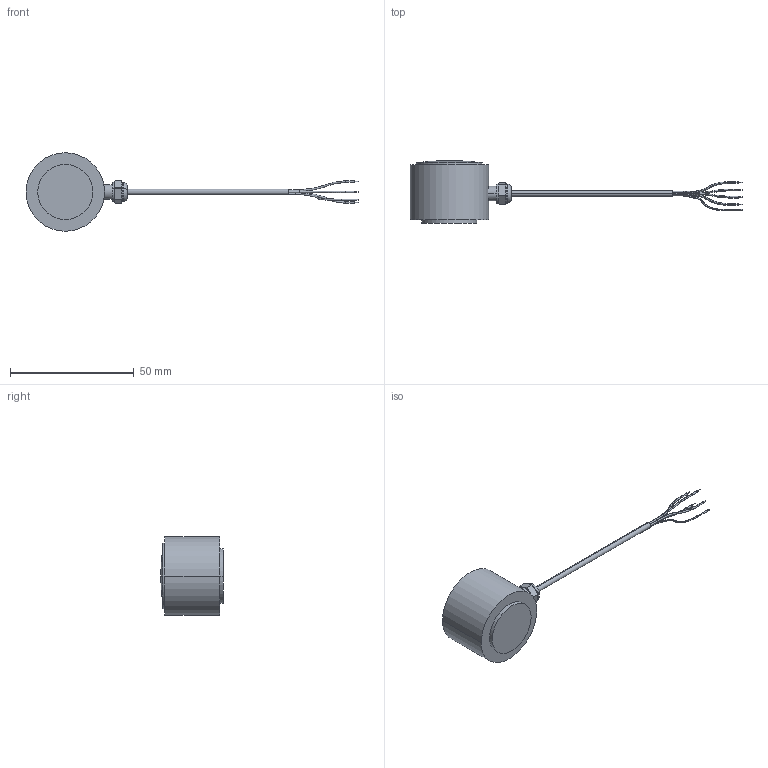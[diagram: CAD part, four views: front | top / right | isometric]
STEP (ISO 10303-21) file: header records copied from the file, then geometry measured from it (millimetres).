
FILE_DESCRIPTION (( 'STEP AP203' ), '1' );
FILE_NAME ('80519.STEP', '2017-10-02T14:25:10', ( '' ), ( '' ), 'SwSTEP 2.0', 'SolidWorks 2016', '' );
FILE_SCHEMA (( 'CONFIG_CONTROL_DESIGN' ));
Length unit declared in the file: inch
Products named in the file (1): 80519
Bounding box: 134.24 x 25.4 x 31.75 mm (x, y, z)
Volume: 19582.5 mm3; surface area: 5040.7 mm2
Topology: 1 solids, 2 shells, 100 faces, 229 edges, 147 vertices
Faces by surface type: cylinder 53, plane 23, bspline 10, cone 8, torus 4, sphere 2
Entity records: 5118 total; most frequent: CARTESIAN_POINT 2787, DIRECTION 487, ORIENTED_EDGE 458, EDGE_CURVE 229, AXIS2_PLACEMENT_3D 213, VERTEX_POINT 147, CIRCLE 122, EDGE_LOOP 116
